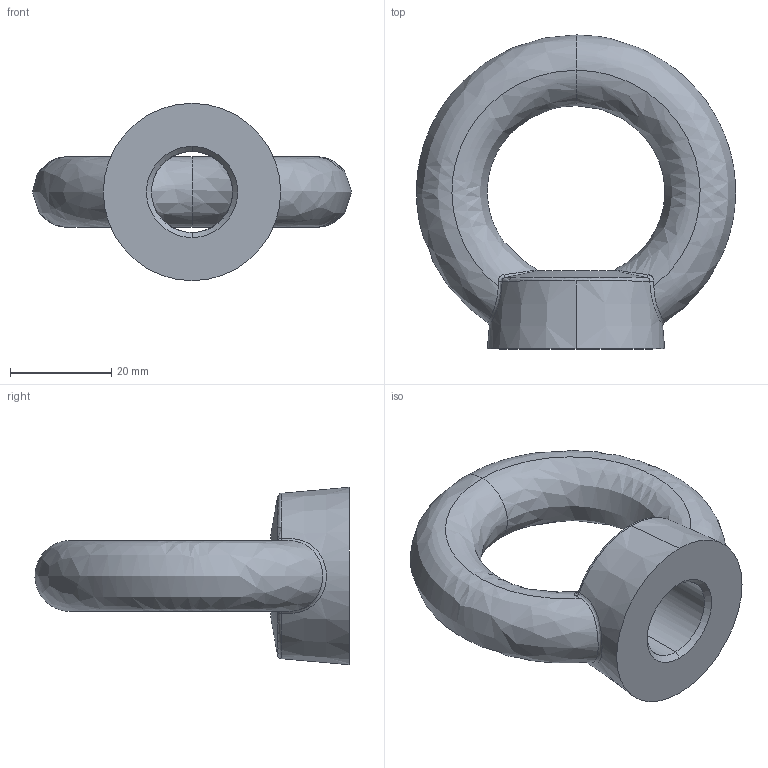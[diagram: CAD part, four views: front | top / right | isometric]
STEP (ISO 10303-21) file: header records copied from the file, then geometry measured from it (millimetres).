
FILE_DESCRIPTION (( 'STEP AP203' ), '1' );
FILE_NAME ('P4041.160-ZP.step', '2023-04-16T07:59:55', ( '' ), ( '' ), 'SwSTEP 2.0', 'SolidWorks 2019', '' );
FILE_SCHEMA (( 'CONFIG_CONTROL_DESIGN' ));
Length unit declared in the file: millimetre
Products named in the file (1): P4041.160-ZP
Bounding box: 62.99 x 61.99 x 35 mm (x, y, z)
Volume: 28724.5 mm3; surface area: 8674.4 mm2
Topology: 1 solids, 1 shells, 27 faces, 69 edges, 41 vertices
Faces by surface type: bspline 14, cone 7, torus 3, cylinder 2, plane 1
Entity records: 3166 total; most frequent: CARTESIAN_POINT 2540, ORIENTED_EDGE 138, DIRECTION 87, EDGE_CURVE 69, VERTEX_POINT 41, AXIS2_PLACEMENT_3D 40, B_SPLINE_CURVE_WITH_KNOTS 34, EDGE_LOOP 28
